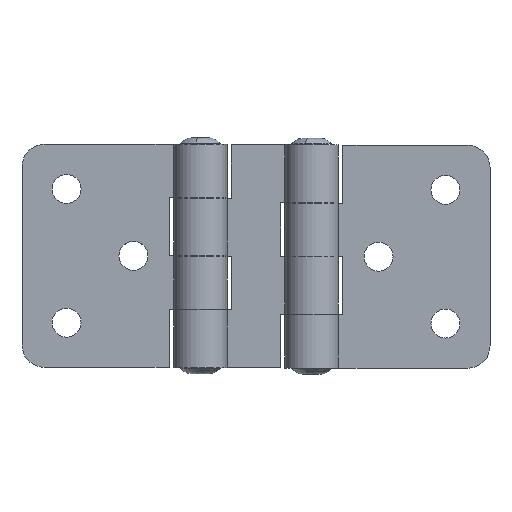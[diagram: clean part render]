
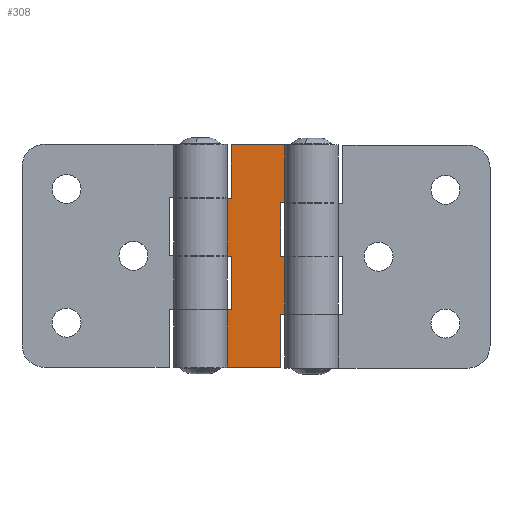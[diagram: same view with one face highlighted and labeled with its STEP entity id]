
A CAD part, top view. The second image highlights one B-rep face of the part: STEP entity #308.
In plain terms, the highlighted planar face has unit normal (0, 0, 1).
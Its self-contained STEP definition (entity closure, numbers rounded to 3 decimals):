
#61 = VERTEX_POINT ( 'NONE', #877 ) ;
#226 = VERTEX_POINT ( 'NONE', #1089 ) ;
#227 = ORIENTED_EDGE ( 'NONE', *, *, #228, .F. ) ;
#228 = EDGE_CURVE ( 'NONE', #229, #226, #1088, .T. ) ;
#229 = VERTEX_POINT ( 'NONE', #1084 ) ;
#230 = ORIENTED_EDGE ( 'NONE', *, *, #231, .T. ) ;
#231 = EDGE_CURVE ( 'NONE', #229, #232, #1083, .T. ) ;
#232 = VERTEX_POINT ( 'NONE', #1079 ) ;
#233 = ORIENTED_EDGE ( 'NONE', *, *, #234, .F. ) ;
#234 = EDGE_CURVE ( 'NONE', #61, #232, #1145, .T. ) ;
#244 = VERTEX_POINT ( 'NONE', #1121 ) ;
#246 = EDGE_CURVE ( 'NONE', #247, #244, #1120, .T. ) ;
#247 = VERTEX_POINT ( 'NONE', #1116 ) ;
#261 = VERTEX_POINT ( 'NONE', #1197 ) ;
#263 = EDGE_CURVE ( 'NONE', #264, #261, #1196, .T. ) ;
#264 = VERTEX_POINT ( 'NONE', #1192 ) ;
#278 = ORIENTED_EDGE ( 'NONE', *, *, #279, .T. ) ;
#279 = EDGE_CURVE ( 'NONE', #307, #280, #1174, .T. ) ;
#280 = VERTEX_POINT ( 'NONE', #1233 ) ;
#281 = ORIENTED_EDGE ( 'NONE', *, *, #282, .F. ) ;
#282 = EDGE_CURVE ( 'NONE', #283, #280, #1232, .T. ) ;
#283 = VERTEX_POINT ( 'NONE', #1228 ) ;
#284 = ORIENTED_EDGE ( 'NONE', *, *, #285, .F. ) ;
#285 = EDGE_CURVE ( 'NONE', #286, #283, #1227, .T. ) ;
#286 = VERTEX_POINT ( 'NONE', #1223 ) ;
#287 = ORIENTED_EDGE ( 'NONE', *, *, #288, .F. ) ;
#288 = EDGE_CURVE ( 'NONE', #289, #286, #1222, .T. ) ;
#289 = VERTEX_POINT ( 'NONE', #1218 ) ;
#290 = ORIENTED_EDGE ( 'NONE', *, *, #291, .T. ) ;
#291 = EDGE_CURVE ( 'NONE', #289, #247, #1217, .T. ) ;
#293 = ORIENTED_EDGE ( 'NONE', *, *, #294, .F. ) ;
#294 = EDGE_CURVE ( 'NONE', #295, #61, #1213, .T. ) ;
#295 = VERTEX_POINT ( 'NONE', #1209 ) ;
#296 = ORIENTED_EDGE ( 'NONE', *, *, #297, .F. ) ;
#297 = EDGE_CURVE ( 'NONE', #298, #295, #1208, .T. ) ;
#298 = VERTEX_POINT ( 'NONE', #1204 ) ;
#299 = ORIENTED_EDGE ( 'NONE', *, *, #300, .T. ) ;
#300 = EDGE_CURVE ( 'NONE', #298, #264, #1267, .T. ) ;
#301 = ORIENTED_EDGE ( 'NONE', *, *, #263, .T. ) ;
#302 = ORIENTED_EDGE ( 'NONE', *, *, #303, .F. ) ;
#303 = EDGE_CURVE ( 'NONE', #304, #261, #1263, .T. ) ;
#304 = VERTEX_POINT ( 'NONE', #1259 ) ;
#305 = ORIENTED_EDGE ( 'NONE', *, *, #306, .F. ) ;
#306 = EDGE_CURVE ( 'NONE', #307, #304, #1258, .T. ) ;
#307 = VERTEX_POINT ( 'NONE', #1254 ) ;
#308 = ADVANCED_FACE ( 'NONE', ( #1253 ), #1252, .F. ) ;
#309 = EDGE_LOOP ( 'NONE', ( #310, #311, #227, #230, #233, #293, #296, #299, #301, #302, #305, #278, #281, #284, #287, #290 ) ) ;
#310 = ORIENTED_EDGE ( 'NONE', *, *, #246, .T. ) ;
#311 = ORIENTED_EDGE ( 'NONE', *, *, #312, .F. ) ;
#312 = EDGE_CURVE ( 'NONE', #226, #244, #1247, .T. ) ;
#877 = CARTESIAN_POINT ( 'NONE',  ( 7., 25., 3. ) ) ;
#1079 = CARTESIAN_POINT ( 'NONE',  ( 0., 25., 3. ) ) ;
#1080 = DIRECTION ( 'NONE',  ( 0., -1., 0. ) ) ;
#1081 = VECTOR ( 'NONE', #1080, 1000. ) ;
#1082 = CARTESIAN_POINT ( 'NONE',  ( 0., 0., 3. ) ) ;
#1083 = LINE ( 'NONE', #1082, #1081 ) ;
#1084 = CARTESIAN_POINT ( 'NONE',  ( 0., 38., 3. ) ) ;
#1085 = DIRECTION ( 'NONE',  ( 1., 0., 0. ) ) ;
#1086 = VECTOR ( 'NONE', #1085, 1000. ) ;
#1087 = CARTESIAN_POINT ( 'NONE',  ( 7., 38., 3. ) ) ;
#1088 = LINE ( 'NONE', #1087, #1086 ) ;
#1089 = CARTESIAN_POINT ( 'NONE',  ( 7., 38., 3. ) ) ;
#1116 = CARTESIAN_POINT ( 'NONE',  ( 25., 50., 3. ) ) ;
#1117 = DIRECTION ( 'NONE',  ( -1., 0., 0. ) ) ;
#1118 = VECTOR ( 'NONE', #1117, 1000. ) ;
#1119 = CARTESIAN_POINT ( 'NONE',  ( 0., 50., 3. ) ) ;
#1120 = LINE ( 'NONE', #1119, #1118 ) ;
#1121 = CARTESIAN_POINT ( 'NONE',  ( 7., 50., 3. ) ) ;
#1142 = DIRECTION ( 'NONE',  ( -1., 0., 0. ) ) ;
#1143 = VECTOR ( 'NONE', #1142, 1000. ) ;
#1144 = CARTESIAN_POINT ( 'NONE',  ( -5.554, 25., 3. ) ) ;
#1145 = LINE ( 'NONE', #1144, #1143 ) ;
#1171 = DIRECTION ( 'NONE',  ( 0., 1., 0. ) ) ;
#1172 = VECTOR ( 'NONE', #1171, 1000. ) ;
#1173 = CARTESIAN_POINT ( 'NONE',  ( 25., 0., 3. ) ) ;
#1174 = LINE ( 'NONE', #1173, #1172 ) ;
#1192 = CARTESIAN_POINT ( 'NONE',  ( 0., 0., 3. ) ) ;
#1193 = DIRECTION ( 'NONE',  ( 1., 0., 0. ) ) ;
#1194 = VECTOR ( 'NONE', #1193, 1000. ) ;
#1195 = CARTESIAN_POINT ( 'NONE',  ( 0., 0., 3. ) ) ;
#1196 = LINE ( 'NONE', #1195, #1194 ) ;
#1197 = CARTESIAN_POINT ( 'NONE',  ( 18., 0., 3. ) ) ;
#1204 = CARTESIAN_POINT ( 'NONE',  ( 0., 13., 3. ) ) ;
#1205 = DIRECTION ( 'NONE',  ( 1., 0., 0. ) ) ;
#1206 = VECTOR ( 'NONE', #1205, 1000. ) ;
#1207 = CARTESIAN_POINT ( 'NONE',  ( -5.554, 13., 3. ) ) ;
#1208 = LINE ( 'NONE', #1207, #1206 ) ;
#1209 = CARTESIAN_POINT ( 'NONE',  ( 7., 13., 3. ) ) ;
#1210 = DIRECTION ( 'NONE',  ( 0., 1., 0. ) ) ;
#1211 = VECTOR ( 'NONE', #1210, 1000. ) ;
#1212 = CARTESIAN_POINT ( 'NONE',  ( 7., 13., 3. ) ) ;
#1213 = LINE ( 'NONE', #1212, #1211 ) ;
#1214 = DIRECTION ( 'NONE',  ( 0., 1., 0. ) ) ;
#1215 = VECTOR ( 'NONE', #1214, 1000. ) ;
#1216 = CARTESIAN_POINT ( 'NONE',  ( 25., 0., 3. ) ) ;
#1217 = LINE ( 'NONE', #1216, #1215 ) ;
#1218 = CARTESIAN_POINT ( 'NONE',  ( 25., 37., 3. ) ) ;
#1219 = DIRECTION ( 'NONE',  ( -1., 0., 0. ) ) ;
#1220 = VECTOR ( 'NONE', #1219, 1000. ) ;
#1221 = CARTESIAN_POINT ( 'NONE',  ( 18., 37., 3. ) ) ;
#1222 = LINE ( 'NONE', #1221, #1220 ) ;
#1223 = CARTESIAN_POINT ( 'NONE',  ( 18., 37., 3. ) ) ;
#1224 = DIRECTION ( 'NONE',  ( 0., -1., 0. ) ) ;
#1225 = VECTOR ( 'NONE', #1224, 1000. ) ;
#1226 = CARTESIAN_POINT ( 'NONE',  ( 18., 25., 3. ) ) ;
#1227 = LINE ( 'NONE', #1226, #1225 ) ;
#1228 = CARTESIAN_POINT ( 'NONE',  ( 18., 25., 3. ) ) ;
#1229 = DIRECTION ( 'NONE',  ( 1., 0., 0. ) ) ;
#1230 = VECTOR ( 'NONE', #1229, 1000. ) ;
#1231 = CARTESIAN_POINT ( 'NONE',  ( 18., 25., 3. ) ) ;
#1232 = LINE ( 'NONE', #1231, #1230 ) ;
#1233 = CARTESIAN_POINT ( 'NONE',  ( 25., 25., 3. ) ) ;
#1244 = DIRECTION ( 'NONE',  ( 0., 1., 0. ) ) ;
#1245 = VECTOR ( 'NONE', #1244, 1000. ) ;
#1246 = CARTESIAN_POINT ( 'NONE',  ( 7., 38., 3. ) ) ;
#1247 = LINE ( 'NONE', #1246, #1245 ) ;
#1248 = DIRECTION ( 'NONE',  ( -1., 0., 0. ) ) ;
#1249 = DIRECTION ( 'NONE',  ( 0., 0., -1. ) ) ;
#1250 = CARTESIAN_POINT ( 'NONE',  ( 0., 50., 3. ) ) ;
#1251 = AXIS2_PLACEMENT_3D ( 'NONE', #1250, #1249, #1248 ) ;
#1252 = PLANE ( 'NONE',  #1251 ) ;
#1253 = FACE_OUTER_BOUND ( 'NONE', #309, .T. ) ;
#1254 = CARTESIAN_POINT ( 'NONE',  ( 25., 12., 3. ) ) ;
#1255 = DIRECTION ( 'NONE',  ( -1., 0., 0. ) ) ;
#1256 = VECTOR ( 'NONE', #1255, 1000. ) ;
#1257 = CARTESIAN_POINT ( 'NONE',  ( 35.441, 12., 3. ) ) ;
#1258 = LINE ( 'NONE', #1257, #1256 ) ;
#1259 = CARTESIAN_POINT ( 'NONE',  ( 18., 12., 3. ) ) ;
#1260 = DIRECTION ( 'NONE',  ( 0., -1., 0. ) ) ;
#1261 = VECTOR ( 'NONE', #1260, 1000. ) ;
#1262 = CARTESIAN_POINT ( 'NONE',  ( 18., 0., 3. ) ) ;
#1263 = LINE ( 'NONE', #1262, #1261 ) ;
#1264 = DIRECTION ( 'NONE',  ( 0., -1., 0. ) ) ;
#1265 = VECTOR ( 'NONE', #1264, 1000. ) ;
#1266 = CARTESIAN_POINT ( 'NONE',  ( 0., 0., 3. ) ) ;
#1267 = LINE ( 'NONE', #1266, #1265 ) ;
